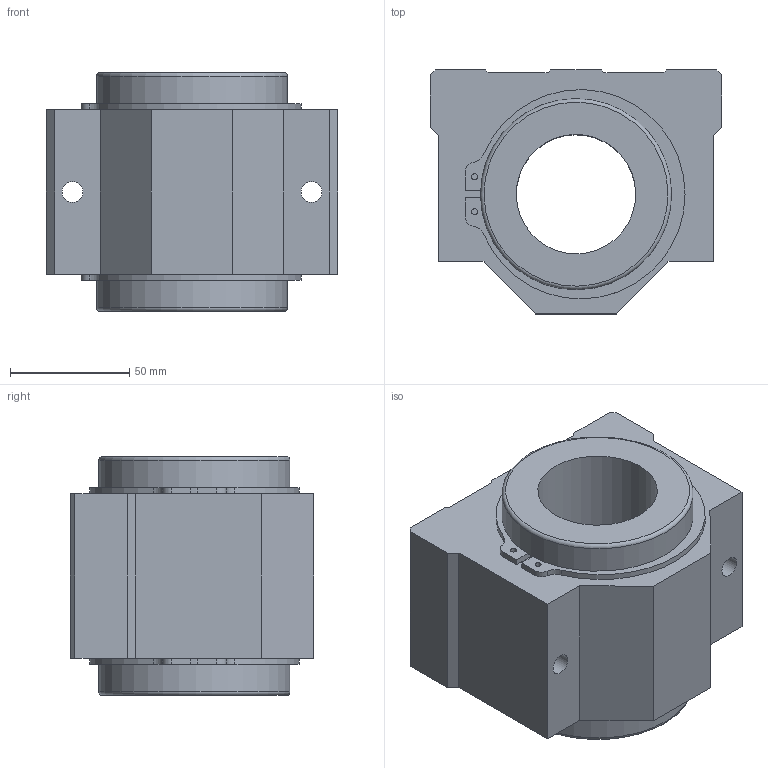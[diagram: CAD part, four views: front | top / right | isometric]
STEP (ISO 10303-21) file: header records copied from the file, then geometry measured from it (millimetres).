
FILE_DESCRIPTION(('STEP AP203'),'1');
FILE_NAME('//192.168.1.1/share/s-4 技術開発/s-4-4_CAD/s-4-4-3_見直し済み/008 修正済み/LC-C/LC-C_TOP/LC-50VCUU.step','2022-05-19T01:30:37',(' '),(' '),'Spatial InterOp 3D',' ',' ');
FILE_SCHEMA(('CONFIG_CONTROL_DESIGN'));
Length unit declared in the file: millimetre
Products named in the file (4): 1; 2; 3; 4
Bounding box: 122 x 102 x 100 mm (x, y, z)
Volume: 682006.6 mm3; surface area: 118522.8 mm2
Topology: 4 solids, 4 shells, 71 faces, 178 edges, 119 vertices
Faces by surface type: plane 42, cylinder 27, torus 2
Full cylindrical faces by diameter (mm): 2.5 x4, 8.7 x4, 50 x1, 76.5 x2, 80 x4
Entity records: 2212 total; most frequent: DIRECTION 360, CARTESIAN_POINT 345, ORIENTED_EDGE 312, EDGE_CURVE 156, AXIS2_PLACEMENT_3D 129, VERTEX_POINT 114, EDGE_LOOP 108, LINE 102
